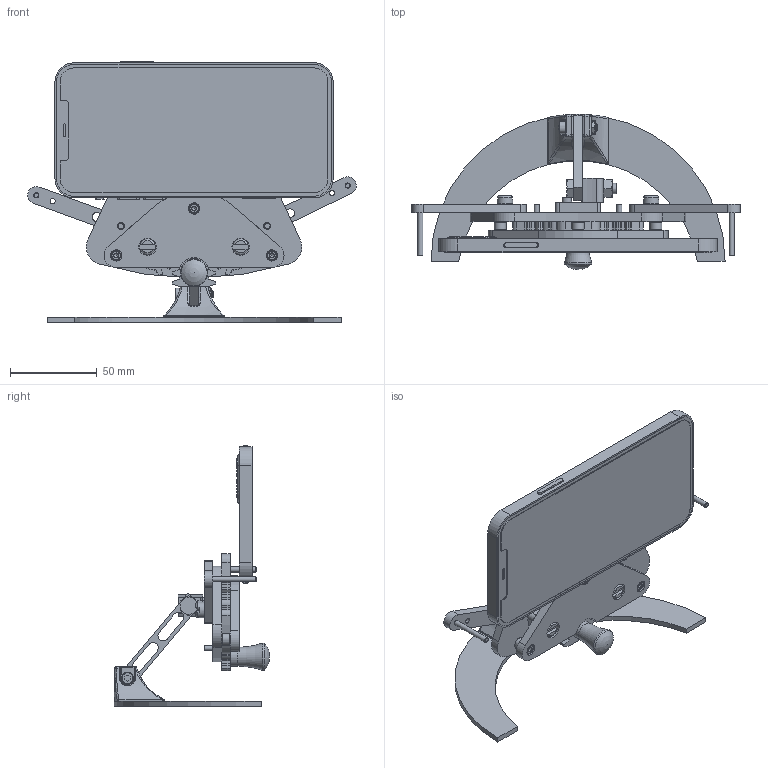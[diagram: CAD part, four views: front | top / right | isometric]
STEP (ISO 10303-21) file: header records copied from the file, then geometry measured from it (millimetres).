
FILE_DESCRIPTION(/* description */ (''),/* implementation_level */ '2;1');
FILE_NAME(/* name */ 'SUPPORT TELEPHONE v29.step',/* time_stamp */ '2023-08-28T08:55:40+02:00',/* author */ (''),/* organization */ (''),/* preprocessor_version */ 'ST-DEVELOPER v20',/* originating_system */ 'Autodesk Translation Framework v12.9.0.99',/* authorisation */ '');
FILE_SCHEMA (('AUTOMOTIVE_DESIGN { 1 0 10303 214 3 1 1 }'));
Length unit declared in the file: millimetre
Products named in the file (49): SUPPORT TELEPHONE; PARTIE_FIXE_ASM; PLAQUE_SUPPORT; GOUPILLE_D3_L10; PLAQUE_AVANT; EQUERRE; VIS_EPAULEE; ENTRETOISE; ENS_PIGNON_ASM; ENS_PIGNON2_ASM; PIGNON; GOUPILLE_D3_L15; ENS_BRAS_ASM; ENS_BRAS2_ASM; BRAS; GOUPILLE_D3_L30; ENS_CREMAILLERE_ASM; CREMAILLERE; REPOSOIR; IPHONE_ASM; IPHONE12PRO_1_ASM; FRONT_GLASS; POWER_BUTTON; CAMERA3; FRONT_BODY; BOSS-EXTRUDE10; VOLUME_BUTTON_DOWN; APPLE_LOGO1; FLASHLIGHT; CAMERA2; VOLUME_BUTTON_TOP; APPLE_LOGO; CAMERA1; CHAMFER2; CHAMFER3; CHARGING_SLOT; BACK_BODY; TOGGLE_BUTTON; BACK_PANEL; ENS_BASE_ASM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
Assembly tree (63 placements, depth 4):
  SUPPORT TELEPHONE
    PARTIE_FIXE_ASM
      PLAQUE_SUPPORT
      VIS_EPAULEE  x4
      GOUPILLE_D3_L10
      PLAQUE_AVANT
      ENTRETOISE  x3
      EQUERRE
    ENS_PIGNON_ASM
      PIGNON
      GOUPILLE_D3_L15  x2
    ENS_PIGNON2_ASM
      PIGNON
      GOUPILLE_D3_L15  x2
    ENS_BRAS_ASM
      BRAS
      GOUPILLE_D3_L30
    ENS_BRAS2_ASM
      BRAS
      GOUPILLE_D3_L30
    ENS_CREMAILLERE_ASM
      CREMAILLERE
      REPOSOIR
    IPHONE_ASM
      IPHONE12PRO_1_ASM
        FRONT_GLASS
        POWER_BUTTON
        CAMERA3
        FRONT_BODY
        BOSS-EXTRUDE10
        VOLUME_BUTTON_DOWN
        APPLE_LOGO1
        FLASHLIGHT
        CAMERA2
        VOLUME_BUTTON_TOP
        APPLE_LOGO
        CAMERA1
        CHAMFER2
        CHAMFER3
        CHARGING_SLOT
        BACK_BODY
        TOGGLE_BUTTON
        BACK_PANEL
    ENS_BASE_ASM
      BASE
      CHAPE
      VIS_DIN_ISO_7050_ST2_9X9_5  x2
    BRAS_SUPPORT
    VIS_CHC_M3_10  x4
    ISO4014-M6X30-5_6
    ISO4032-M6-6
    ISO4762-M4X18-8_8
    ISO4032-M4-6
Bounding box: 189.95 x 89.82 x 150.87 mm (x, y, z)
Volume: 192564.2 mm3; surface area: 170248.9 mm2
Topology: 58 solids, 75 shells, 1322 faces, 3276 edges, 2108 vertices
Faces by surface type: plane 587, cylinder 456, cone 136, bspline 94, torus 40, sphere 9
Full cylindrical faces by diameter (mm): 0.75 x1, 1.1 x1, 1.25 x8, 1.5 x2, 2 x4, 2.18 x10, 2.3 x2, 2.5 x4, 3 x28, 3.111 x8, 3.2 x8, 3.3 x10, 3.4 x7, 3.5 x4, 3.908 x8, 4 x6, 4.2 x4, 4.5 x3, 5 x7, 5.5 x6, 6 x2, 6.5 x3, 6.6 x2, 6.9 x3, 7 x1, 8 x1, 8.5 x1, 9 x4, 9.884 x1, 10 x3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
Entity records: 41060 total; most frequent: CARTESIAN_POINT 15396, DIRECTION 5214, ORIENTED_EDGE 4969, EDGE_CURVE 2499, AXIS2_PLACEMENT_3D 1928, VERTEX_POINT 1618, LINE 1358, VECTOR 1358
